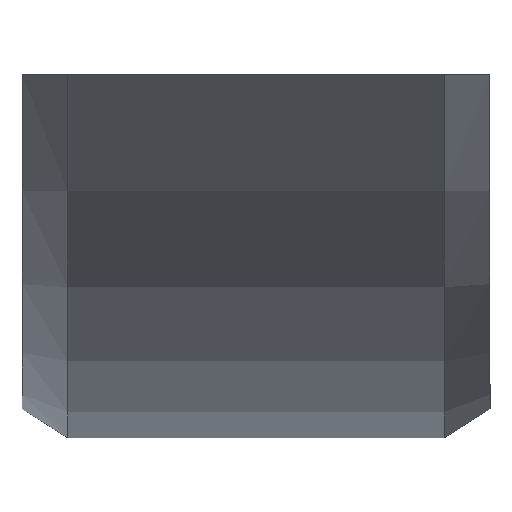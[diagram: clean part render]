
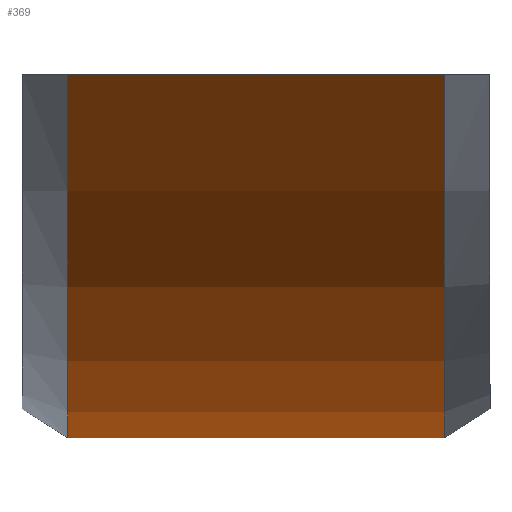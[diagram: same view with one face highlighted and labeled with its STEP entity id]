
A CAD part, top view. The second image highlights one B-rep face of the part: STEP entity #369.
In plain terms, the highlighted cylindrical face has radius 50 mm (diameter 100 mm), a partial arc.
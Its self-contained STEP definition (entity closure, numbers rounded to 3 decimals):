
#52=FACE_OUTER_BOUND('',#76,.T.);
#76=EDGE_LOOP('',(#319,#320,#321,#322));
#84=LINE('',#568,#110);
#90=LINE('',#588,#116);
#110=VECTOR('',#461,10.);
#116=VECTOR('',#467,10.);
#141=CIRCLE('',#417,50.);
#146=CIRCLE('',#428,50.);
#159=VERTEX_POINT('',#563);
#160=VERTEX_POINT('',#567);
#167=VERTEX_POINT('',#583);
#168=VERTEX_POINT('',#587);
#193=EDGE_CURVE('',#160,#159,#84,.T.);
#201=EDGE_CURVE('',#168,#167,#90,.T.);
#221=EDGE_CURVE('',#160,#167,#141,.T.);
#226=EDGE_CURVE('',#159,#168,#146,.T.);
#319=ORIENTED_EDGE('',*,*,#201,.T.);
#320=ORIENTED_EDGE('',*,*,#221,.F.);
#321=ORIENTED_EDGE('',*,*,#193,.T.);
#322=ORIENTED_EDGE('',*,*,#226,.T.);
#330=CYLINDRICAL_SURFACE('',#429,50.);
#369=ADVANCED_FACE('',(#52),#330,.T.);
#417=AXIS2_PLACEMENT_3D('',#627,#506,#507);
#428=AXIS2_PLACEMENT_3D('',#638,#528,#529);
#429=AXIS2_PLACEMENT_3D('',#639,#530,#531);
#461=DIRECTION('',(1.,0.,0.));
#467=DIRECTION('',(-1.,0.,0.));
#506=DIRECTION('center_axis',(-1.,0.,0.));
#507=DIRECTION('ref_axis',(0.,0.,-1.));
#528=DIRECTION('center_axis',(-1.,0.,0.));
#529=DIRECTION('ref_axis',(0.,0.,-1.));
#530=DIRECTION('center_axis',(-1.,0.,0.));
#531=DIRECTION('ref_axis',(0.,0.,-1.));
#563=CARTESIAN_POINT('',(7.886,-0.5,-35.999));
#567=CARTESIAN_POINT('',(-7.886,-0.5,-35.999));
#568=CARTESIAN_POINT('',(3.943,-0.5,-35.999));
#583=CARTESIAN_POINT('',(-7.886,-0.5,35.999));
#587=CARTESIAN_POINT('',(7.886,-0.5,35.999));
#588=CARTESIAN_POINT('',(3.943,-0.5,35.999));
#627=CARTESIAN_POINT('Origin',(-7.886,34.2,0.));
#638=CARTESIAN_POINT('Origin',(7.886,34.2,0.));
#639=CARTESIAN_POINT('Origin',(3.943,34.2,0.));
